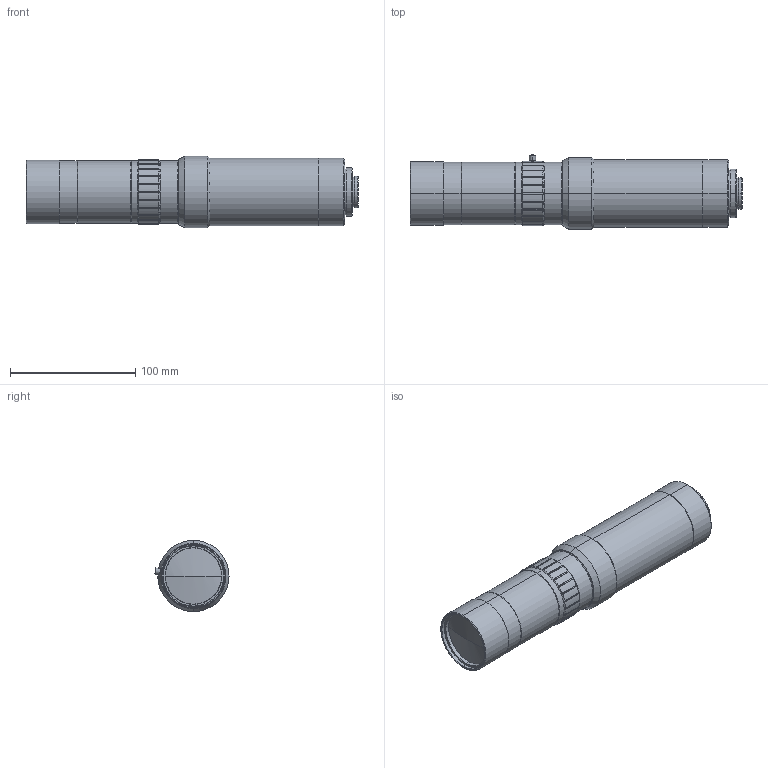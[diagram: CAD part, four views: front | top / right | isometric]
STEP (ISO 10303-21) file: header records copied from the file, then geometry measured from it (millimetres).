
FILE_DESCRIPTION (( 'STEP AP203' ), '1' );
FILE_NAME ('VS-TCM1-130_S.STEP', '2014-08-21T00:24:52', ( 'miura_vst' ), ( '' ), 'SwSTEP 2.0', 'SolidWorks 2014', '' );
FILE_SCHEMA (( 'CONFIG_CONTROL_DESIGN' ));
Length unit declared in the file: millimetre
Products named in the file (1): VS-TCM1-130_S
Bounding box: 265.47 x 59.29 x 57 mm (x, y, z)
Volume: 552862.8 mm3; surface area: 50459.4 mm2
Topology: 2 solids, 2 shells, 203 faces, 502 edges, 317 vertices
Faces by surface type: plane 89, cylinder 64, cone 48, sphere 2
Entity records: 6253 total; most frequent: CARTESIAN_POINT 1515, ORIENTED_EDGE 1004, DIRECTION 932, EDGE_CURVE 502, AXIS2_PLACEMENT_3D 374, VERTEX_POINT 317, EDGE_LOOP 217, ADVANCED_FACE 203
